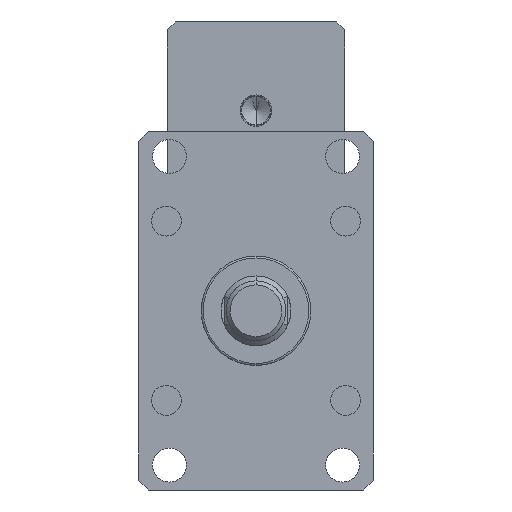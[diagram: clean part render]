
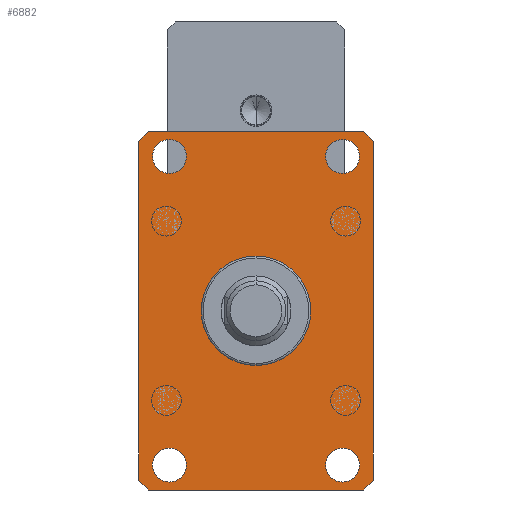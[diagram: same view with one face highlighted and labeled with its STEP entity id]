
A CAD part, front view. The second image highlights one B-rep face of the part: STEP entity #6882.
In plain terms, the highlighted planar face has unit normal (0, -1, 0).
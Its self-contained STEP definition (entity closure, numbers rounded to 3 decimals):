
#43 = VECTOR ( 'NONE', #9669, 1000. ) ;
#58 = DIRECTION ( 'NONE',  ( 0., 0., 1. ) ) ;
#92 = EDGE_CURVE ( 'NONE', #12108, #5488, #12014, .T. ) ;
#291 = VERTEX_POINT ( 'NONE', #6895 ) ;
#389 = ORIENTED_EDGE ( 'NONE', *, *, #92, .F. ) ;
#407 = DIRECTION ( 'NONE',  ( 0., 1., 0. ) ) ;
#505 = DIRECTION ( 'NONE',  ( 0., 1., 0. ) ) ;
#535 = AXIS2_PLACEMENT_3D ( 'NONE', #10063, #4341, #11015 ) ;
#562 = ORIENTED_EDGE ( 'NONE', *, *, #2606, .T. ) ;
#767 = EDGE_CURVE ( 'NONE', #9572, #1025, #7694, .T. ) ;
#964 = VERTEX_POINT ( 'NONE', #9656 ) ;
#993 = FACE_BOUND ( 'NONE', #1295, .T. ) ;
#1025 = VERTEX_POINT ( 'NONE', #10724 ) ;
#1027 = CARTESIAN_POINT ( 'NONE',  ( 43.5, -55., 69. ) ) ;
#1132 = LINE ( 'NONE', #9740, #8577 ) ;
#1217 = VERTEX_POINT ( 'NONE', #11045 ) ;
#1270 = EDGE_CURVE ( 'NONE', #3720, #2315, #6475, .T. ) ;
#1284 = CIRCLE ( 'NONE', #535, 8.5 ) ;
#1295 = EDGE_LOOP ( 'NONE', ( #6966, #6197 ) ) ;
#1346 = CARTESIAN_POINT ( 'NONE',  ( 59., -55., 85. ) ) ;
#1598 = EDGE_CURVE ( 'NONE', #7451, #8930, #5732, .T. ) ;
#1636 = CARTESIAN_POINT ( 'NONE',  ( -54., -55., -90. ) ) ;
#1665 = DIRECTION ( 'NONE',  ( 0., -1., 0. ) ) ;
#1786 = VECTOR ( 'NONE', #3611, 1000. ) ;
#1950 = CIRCLE ( 'NONE', #2305, 8.5 ) ;
#1952 = CARTESIAN_POINT ( 'NONE',  ( 59., -55., -85. ) ) ;
#2016 = AXIS2_PLACEMENT_3D ( 'NONE', #7843, #10711, #4991 ) ;
#2022 = ORIENTED_EDGE ( 'NONE', *, *, #2867, .T. ) ;
#2179 = EDGE_CURVE ( 'NONE', #1025, #9572, #1284, .T. ) ;
#2186 = CARTESIAN_POINT ( 'NONE',  ( 54., -55., 90. ) ) ;
#2219 = VECTOR ( 'NONE', #8070, 1000. ) ;
#2268 = EDGE_CURVE ( 'NONE', #2315, #3720, #2690, .T. ) ;
#2305 = AXIS2_PLACEMENT_3D ( 'NONE', #6293, #407, #7257 ) ;
#2315 = VERTEX_POINT ( 'NONE', #12166 ) ;
#2371 = CARTESIAN_POINT ( 'NONE',  ( -43.5, -55., 86. ) ) ;
#2440 = EDGE_CURVE ( 'NONE', #8930, #7451, #1950, .T. ) ;
#2587 = EDGE_CURVE ( 'NONE', #5569, #291, #9485, .T. ) ;
#2606 = EDGE_CURVE ( 'NONE', #291, #11520, #11719, .T. ) ;
#2688 = EDGE_CURVE ( 'NONE', #11520, #964, #10810, .T. ) ;
#2690 = CIRCLE ( 'NONE', #5845, 8.5 ) ;
#2849 = EDGE_CURVE ( 'NONE', #964, #8398, #12170, .T. ) ;
#2867 = EDGE_CURVE ( 'NONE', #8398, #1217, #4224, .T. ) ;
#3093 = EDGE_CURVE ( 'NONE', #1217, #8320, #4372, .T. ) ;
#3165 = EDGE_CURVE ( 'NONE', #8320, #5688, #1132, .T. ) ;
#3289 = FACE_BOUND ( 'NONE', #3777, .T. ) ;
#3294 = ORIENTED_EDGE ( 'NONE', *, *, #3315, .T. ) ;
#3315 = EDGE_CURVE ( 'NONE', #5688, #5569, #9620, .T. ) ;
#3452 = VECTOR ( 'NONE', #6597, 1000. ) ;
#3485 = EDGE_CURVE ( 'NONE', #5488, #12108, #8113, .T. ) ;
#3601 = FACE_OUTER_BOUND ( 'NONE', #12471, .T. ) ;
#3611 = DIRECTION ( 'NONE',  ( -0.707, 0., -0.707 ) ) ;
#3706 = CARTESIAN_POINT ( 'NONE',  ( -59., -55., 85. ) ) ;
#3720 = VERTEX_POINT ( 'NONE', #6783 ) ;
#3777 = EDGE_LOOP ( 'NONE', ( #389, #9095 ) ) ;
#4224 = LINE ( 'NONE', #1636, #9020 ) ;
#4264 = DIRECTION ( 'NONE',  ( 0., 1., 0. ) ) ;
#4341 = DIRECTION ( 'NONE',  ( 0., -1., 0. ) ) ;
#4372 = LINE ( 'NONE', #1952, #43 ) ;
#4383 = VECTOR ( 'NONE', #4522, 1000. ) ;
#4522 = DIRECTION ( 'NONE',  ( -1., 0., 0. ) ) ;
#4688 = AXIS2_PLACEMENT_3D ( 'NONE', #6041, #5965, #5113 ) ;
#4697 = EDGE_LOOP ( 'NONE', ( #8635, #10371 ) ) ;
#4934 = ORIENTED_EDGE ( 'NONE', *, *, #2440, .T. ) ;
#4991 = DIRECTION ( 'NONE',  ( 0., 0., 1. ) ) ;
#5113 = DIRECTION ( 'NONE',  ( 0., 0., -1. ) ) ;
#5217 = CARTESIAN_POINT ( 'NONE',  ( 54., -55., 90. ) ) ;
#5224 = CARTESIAN_POINT ( 'NONE',  ( 59., -55., -85. ) ) ;
#5264 = AXIS2_PLACEMENT_3D ( 'NONE', #7488, #1665, #8442 ) ;
#5442 = DIRECTION ( 'NONE',  ( 0., 1., 0. ) ) ;
#5488 = VERTEX_POINT ( 'NONE', #1027 ) ;
#5569 = VERTEX_POINT ( 'NONE', #2186 ) ;
#5651 = ORIENTED_EDGE ( 'NONE', *, *, #2587, .T. ) ;
#5688 = VERTEX_POINT ( 'NONE', #1346 ) ;
#5732 = CIRCLE ( 'NONE', #7169, 8.5 ) ;
#5834 = CARTESIAN_POINT ( 'NONE',  ( 43.5, -55., 86. ) ) ;
#5845 = AXIS2_PLACEMENT_3D ( 'NONE', #11135, #5442, #12116 ) ;
#5909 = FACE_BOUND ( 'NONE', #12492, .T. ) ;
#5965 = DIRECTION ( 'NONE',  ( 0., -1., 0. ) ) ;
#5990 = ORIENTED_EDGE ( 'NONE', *, *, #1598, .T. ) ;
#6041 = CARTESIAN_POINT ( 'NONE',  ( -43.5, -55., 77.5 ) ) ;
#6197 = ORIENTED_EDGE ( 'NONE', *, *, #2179, .F. ) ;
#6293 = CARTESIAN_POINT ( 'NONE',  ( -43.5, -55., -77.5 ) ) ;
#6389 = CARTESIAN_POINT ( 'NONE',  ( 43.5, -55., -77.5 ) ) ;
#6465 = CARTESIAN_POINT ( 'NONE',  ( -54., -55., 90. ) ) ;
#6475 = CIRCLE ( 'NONE', #8049, 8.5 ) ;
#6509 = DIRECTION ( 'NONE',  ( 1., 0., 0. ) ) ;
#6597 = DIRECTION ( 'NONE',  ( 0., 0., -1. ) ) ;
#6783 = CARTESIAN_POINT ( 'NONE',  ( 43.5, -55., -86. ) ) ;
#6814 = VECTOR ( 'NONE', #12177, 1000. ) ;
#6882 = ADVANCED_FACE ( 'NONE', ( #993, #8427, #5909, #3601, #3289 ), #9748, .F. ) ;
#6895 = CARTESIAN_POINT ( 'NONE',  ( -54., -55., 90. ) ) ;
#6966 = ORIENTED_EDGE ( 'NONE', *, *, #767, .F. ) ;
#7169 = AXIS2_PLACEMENT_3D ( 'NONE', #9986, #4264, #10944 ) ;
#7257 = DIRECTION ( 'NONE',  ( 0., 0., 1. ) ) ;
#7358 = DIRECTION ( 'NONE',  ( 0., 0., 1. ) ) ;
#7451 = VERTEX_POINT ( 'NONE', #7529 ) ;
#7488 = CARTESIAN_POINT ( 'NONE',  ( 43.5, -55., 77.5 ) ) ;
#7529 = CARTESIAN_POINT ( 'NONE',  ( -43.5, -55., -86. ) ) ;
#7694 = CIRCLE ( 'NONE', #4688, 8.5 ) ;
#7843 = CARTESIAN_POINT ( 'NONE',  ( 59., -55., 90. ) ) ;
#8049 = AXIS2_PLACEMENT_3D ( 'NONE', #6389, #505, #7358 ) ;
#8070 = DIRECTION ( 'NONE',  ( -0.707, 0., 0.707 ) ) ;
#8113 = CIRCLE ( 'NONE', #5264, 8.5 ) ;
#8320 = VERTEX_POINT ( 'NONE', #5224 ) ;
#8334 = CARTESIAN_POINT ( 'NONE',  ( -59., -55., -85. ) ) ;
#8398 = VERTEX_POINT ( 'NONE', #9144 ) ;
#8427 = FACE_BOUND ( 'NONE', #4697, .T. ) ;
#8442 = DIRECTION ( 'NONE',  ( 0., 0., -1. ) ) ;
#8577 = VECTOR ( 'NONE', #58, 1000. ) ;
#8635 = ORIENTED_EDGE ( 'NONE', *, *, #2268, .T. ) ;
#8810 = CARTESIAN_POINT ( 'NONE',  ( -43.5, -55., -69. ) ) ;
#8930 = VERTEX_POINT ( 'NONE', #8810 ) ;
#9020 = VECTOR ( 'NONE', #6509, 1000. ) ;
#9095 = ORIENTED_EDGE ( 'NONE', *, *, #3485, .F. ) ;
#9144 = CARTESIAN_POINT ( 'NONE',  ( -54., -55., -90. ) ) ;
#9375 = CARTESIAN_POINT ( 'NONE',  ( -59., -55., 85. ) ) ;
#9485 = LINE ( 'NONE', #6465, #4383 ) ;
#9572 = VERTEX_POINT ( 'NONE', #2371 ) ;
#9620 = LINE ( 'NONE', #5217, #2219 ) ;
#9656 = CARTESIAN_POINT ( 'NONE',  ( -59., -55., -85. ) ) ;
#9669 = DIRECTION ( 'NONE',  ( 0.707, 0., 0.707 ) ) ;
#9740 = CARTESIAN_POINT ( 'NONE',  ( 59., -55., 85. ) ) ;
#9748 = PLANE ( 'NONE',  #2016 ) ;
#9920 = ORIENTED_EDGE ( 'NONE', *, *, #2849, .T. ) ;
#9986 = CARTESIAN_POINT ( 'NONE',  ( -43.5, -55., -77.5 ) ) ;
#10063 = CARTESIAN_POINT ( 'NONE',  ( -43.5, -55., 77.5 ) ) ;
#10371 = ORIENTED_EDGE ( 'NONE', *, *, #1270, .T. ) ;
#10416 = CARTESIAN_POINT ( 'NONE',  ( -59., -55., 85. ) ) ;
#10463 = ORIENTED_EDGE ( 'NONE', *, *, #3165, .T. ) ;
#10711 = DIRECTION ( 'NONE',  ( 0., 1., 0. ) ) ;
#10724 = CARTESIAN_POINT ( 'NONE',  ( -43.5, -55., 69. ) ) ;
#10810 = LINE ( 'NONE', #10416, #3452 ) ;
#10944 = DIRECTION ( 'NONE',  ( 0., 0., 1. ) ) ;
#11015 = DIRECTION ( 'NONE',  ( 0., 0., -1. ) ) ;
#11045 = CARTESIAN_POINT ( 'NONE',  ( 54., -55., -90. ) ) ;
#11135 = CARTESIAN_POINT ( 'NONE',  ( 43.5, -55., -77.5 ) ) ;
#11243 = DIRECTION ( 'NONE',  ( 0., 0., -1. ) ) ;
#11348 = ORIENTED_EDGE ( 'NONE', *, *, #3093, .T. ) ;
#11520 = VERTEX_POINT ( 'NONE', #3706 ) ;
#11719 = LINE ( 'NONE', #9375, #1786 ) ;
#11954 = DIRECTION ( 'NONE',  ( 0., -1., 0. ) ) ;
#11993 = AXIS2_PLACEMENT_3D ( 'NONE', #12127, #11954, #11243 ) ;
#12014 = CIRCLE ( 'NONE', #11993, 8.5 ) ;
#12108 = VERTEX_POINT ( 'NONE', #5834 ) ;
#12116 = DIRECTION ( 'NONE',  ( 0., 0., 1. ) ) ;
#12127 = CARTESIAN_POINT ( 'NONE',  ( 43.5, -55., 77.5 ) ) ;
#12166 = CARTESIAN_POINT ( 'NONE',  ( 43.5, -55., -69. ) ) ;
#12170 = LINE ( 'NONE', #8334, #6814 ) ;
#12177 = DIRECTION ( 'NONE',  ( 0.707, 0., -0.707 ) ) ;
#12352 = ORIENTED_EDGE ( 'NONE', *, *, #2688, .T. ) ;
#12471 = EDGE_LOOP ( 'NONE', ( #5651, #562, #12352, #9920, #2022, #11348, #10463, #3294 ) ) ;
#12492 = EDGE_LOOP ( 'NONE', ( #4934, #5990 ) ) ;
